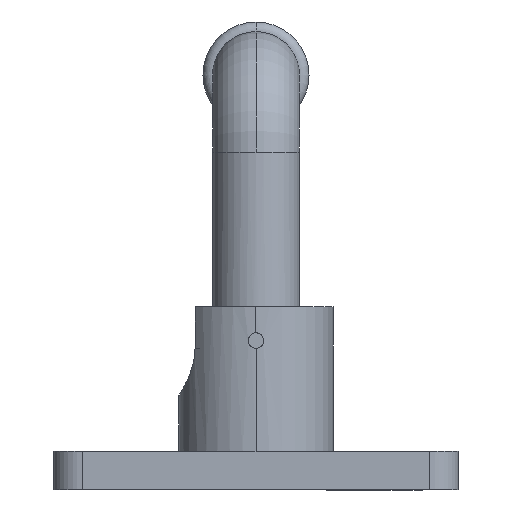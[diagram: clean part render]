
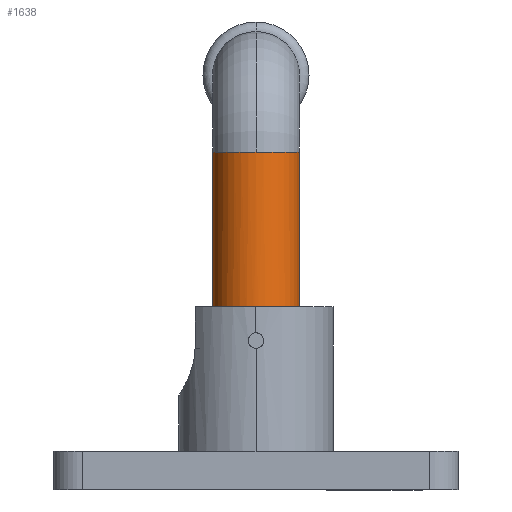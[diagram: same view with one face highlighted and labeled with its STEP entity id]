
A CAD part, front view. The second image highlights one B-rep face of the part: STEP entity #1638.
In plain terms, the highlighted cylindrical face has radius 4.5 mm (diameter 9 mm), a partial arc.
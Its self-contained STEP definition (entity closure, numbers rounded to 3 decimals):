
#34 = CARTESIAN_POINT ( 'NONE',  ( -50., 19.2, -4.5 ) ) ;
#180 = CARTESIAN_POINT ( 'NONE',  ( -54.494, 0.42, -0.227 ) ) ;
#211 = CARTESIAN_POINT ( 'NONE',  ( -50., 0.42, 0. ) ) ;
#213 = VECTOR ( 'NONE', #874, 1000. ) ;
#221 = CARTESIAN_POINT ( 'NONE',  ( -54.494, 0.42, 0.227 ) ) ;
#320 = ORIENTED_EDGE ( 'NONE', *, *, #2673, .F. ) ;
#321 = CYLINDRICAL_SURFACE ( 'NONE', #1732, 4.5 ) ;
#335 = DIRECTION ( 'NONE',  ( 0., -1., 0. ) ) ;
#382 = CARTESIAN_POINT ( 'NONE',  ( -54.494, 0.42, 0.227 ) ) ;
#410 = CIRCLE ( 'NONE', #2888, 4.5 ) ;
#418 = ORIENTED_EDGE ( 'NONE', *, *, #3315, .T. ) ;
#454 = CARTESIAN_POINT ( 'NONE',  ( -50., 0.42, 4.5 ) ) ;
#532 = VERTEX_POINT ( 'NONE', #3582 ) ;
#536 = EDGE_CURVE ( 'NONE', #3576, #2930, #3894, .T. ) ;
#555 = CARTESIAN_POINT ( 'NONE',  ( -54.502, 0.464, 0.079 ) ) ;
#714 = EDGE_LOOP ( 'NONE', ( #320, #1894, #3683, #2702, #418, #3326, #1133 ) ) ;
#784 = DIRECTION ( 'NONE',  ( 0., 0., 1. ) ) ;
#874 = DIRECTION ( 'NONE',  ( 0., -1., 0. ) ) ;
#910 = VECTOR ( 'NONE', #335, 1000. ) ;
#1133 = ORIENTED_EDGE ( 'NONE', *, *, #536, .T. ) ;
#1228 = CARTESIAN_POINT ( 'NONE',  ( -50., 19.2, 0. ) ) ;
#1288 = AXIS2_PLACEMENT_3D ( 'NONE', #2410, #1817, #3024 ) ;
#1331 = DIRECTION ( 'NONE',  ( 0., 1., 0. ) ) ;
#1366 = B_SPLINE_CURVE_WITH_KNOTS ( 'NONE', 3,
 ( #2348, #2641, #555, #221 ),
 .UNSPECIFIED., .F., .F.,
 ( 4, 4 ),
 ( 0., 0. ),
 .UNSPECIFIED. ) ;
#1529 = LINE ( 'NONE', #2741, #213 ) ;
#1638 = ADVANCED_FACE ( 'NONE', ( #3365 ), #321, .T. ) ;
#1732 = AXIS2_PLACEMENT_3D ( 'NONE', #1228, #1853, #2452 ) ;
#1817 = DIRECTION ( 'NONE',  ( 0., 1., 0. ) ) ;
#1853 = DIRECTION ( 'NONE',  ( 0., -1., 0. ) ) ;
#1894 = ORIENTED_EDGE ( 'NONE', *, *, #2461, .F. ) ;
#1930 = AXIS2_PLACEMENT_3D ( 'NONE', #2849, #1331, #3780 ) ;
#2013 = VERTEX_POINT ( 'NONE', #2853 ) ;
#2102 = LINE ( 'NONE', #34, #910 ) ;
#2189 = CIRCLE ( 'NONE', #1288, 4.5 ) ;
#2215 = VERTEX_POINT ( 'NONE', #2747 ) ;
#2348 = CARTESIAN_POINT ( 'NONE',  ( -54.494, 0.42, -0.227 ) ) ;
#2410 = CARTESIAN_POINT ( 'NONE',  ( -50., 19.2, 0. ) ) ;
#2452 = DIRECTION ( 'NONE',  ( 0., 0., -1. ) ) ;
#2461 = EDGE_CURVE ( 'NONE', #3933, #2215, #2752, .T. ) ;
#2540 = DIRECTION ( 'NONE',  ( 0., 0., 1. ) ) ;
#2641 = CARTESIAN_POINT ( 'NONE',  ( -54.502, 0.464, -0.079 ) ) ;
#2673 = EDGE_CURVE ( 'NONE', #2215, #2930, #1529, .T. ) ;
#2702 = ORIENTED_EDGE ( 'NONE', *, *, #3188, .T. ) ;
#2731 = AXIS2_PLACEMENT_3D ( 'NONE', #211, #3525, #784 ) ;
#2741 = CARTESIAN_POINT ( 'NONE',  ( -50., 19.2, 4.5 ) ) ;
#2747 = CARTESIAN_POINT ( 'NONE',  ( -50., 19.2, 4.5 ) ) ;
#2752 = CIRCLE ( 'NONE', #1930, 4.5 ) ;
#2775 = EDGE_CURVE ( 'NONE', #2013, #3933, #2189, .T. ) ;
#2849 = CARTESIAN_POINT ( 'NONE',  ( -50., 19.2, 0. ) ) ;
#2853 = CARTESIAN_POINT ( 'NONE',  ( -50., 19.2, -4.5 ) ) ;
#2888 = AXIS2_PLACEMENT_3D ( 'NONE', #3734, #3102, #2540 ) ;
#2930 = VERTEX_POINT ( 'NONE', #454 ) ;
#3012 = EDGE_CURVE ( 'NONE', #3016, #3576, #1366, .T. ) ;
#3016 = VERTEX_POINT ( 'NONE', #180 ) ;
#3024 = DIRECTION ( 'NONE',  ( 0., 0., 1. ) ) ;
#3102 = DIRECTION ( 'NONE',  ( 0., 1., 0. ) ) ;
#3188 = EDGE_CURVE ( 'NONE', #2013, #532, #2102, .T. ) ;
#3315 = EDGE_CURVE ( 'NONE', #532, #3016, #410, .T. ) ;
#3326 = ORIENTED_EDGE ( 'NONE', *, *, #3012, .T. ) ;
#3365 = FACE_OUTER_BOUND ( 'NONE', #714, .T. ) ;
#3496 = CARTESIAN_POINT ( 'NONE',  ( -54.5, 19.2, 0. ) ) ;
#3525 = DIRECTION ( 'NONE',  ( 0., 1., 0. ) ) ;
#3576 = VERTEX_POINT ( 'NONE', #382 ) ;
#3582 = CARTESIAN_POINT ( 'NONE',  ( -50., 0.42, -4.5 ) ) ;
#3683 = ORIENTED_EDGE ( 'NONE', *, *, #2775, .F. ) ;
#3734 = CARTESIAN_POINT ( 'NONE',  ( -50., 0.42, 0. ) ) ;
#3780 = DIRECTION ( 'NONE',  ( 0., 0., 1. ) ) ;
#3894 = CIRCLE ( 'NONE', #2731, 4.5 ) ;
#3933 = VERTEX_POINT ( 'NONE', #3496 ) ;
